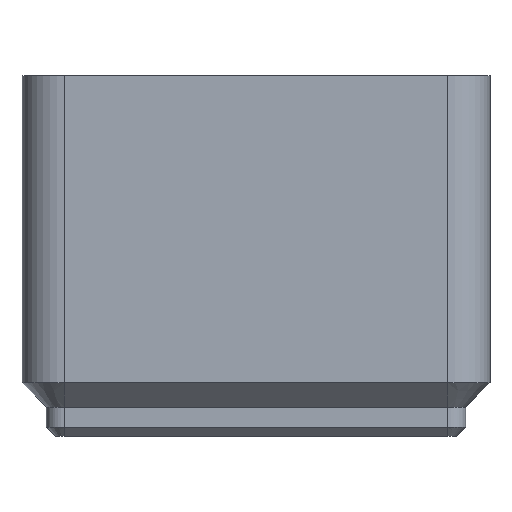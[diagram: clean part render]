
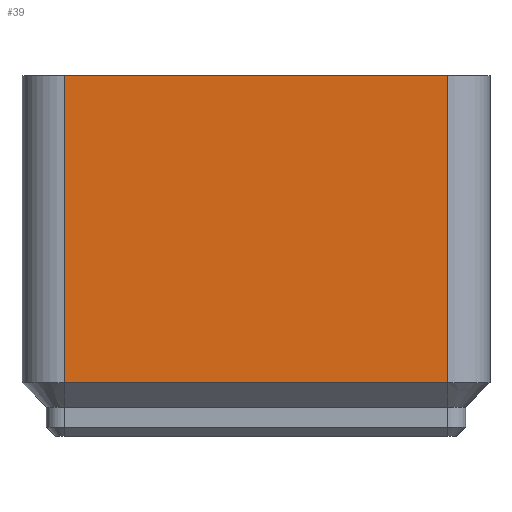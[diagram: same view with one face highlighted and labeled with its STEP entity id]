
A CAD part, left-side view. The second image highlights one B-rep face of the part: STEP entity #39.
In plain terms, the highlighted planar face has unit normal (-1, 0, 0).
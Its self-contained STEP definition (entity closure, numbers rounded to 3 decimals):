
#39 = ADVANCED_FACE('',(#40),#54,.T.);
#40 = FACE_BOUND('',#41,.T.);
#41 = EDGE_LOOP('',(#42,#77,#105,#133));
#42 = ORIENTED_EDGE('',*,*,#43,.F.);
#43 = EDGE_CURVE('',#44,#46,#48,.T.);
#44 = VERTEX_POINT('',#45);
#45 = CARTESIAN_POINT('',(-20.75,-17.,4.75));
#46 = VERTEX_POINT('',#47);
#47 = CARTESIAN_POINT('',(-20.75,17.,4.75));
#48 = SURFACE_CURVE('',#49,(#53,#65),.PCURVE_S1.);
#49 = LINE('',#50,#51);
#50 = CARTESIAN_POINT('',(-20.75,0.,4.75));
#51 = VECTOR('',#52,1.);
#52 = DIRECTION('',(0.,1.,0.));
#53 = PCURVE('',#54,#59);
#54 = PLANE('',#55);
#55 = AXIS2_PLACEMENT_3D('',#56,#57,#58);
#56 = CARTESIAN_POINT('',(-20.75,-17.,4.75));
#57 = DIRECTION('',(-1.,0.,0.));
#58 = DIRECTION('',(0.,1.,0.));
#59 = DEFINITIONAL_REPRESENTATION('',(#60),#64);
#60 = LINE('',#61,#62);
#61 = CARTESIAN_POINT('',(17.,0.));
#62 = VECTOR('',#63,1.);
#63 = DIRECTION('',(1.,0.));
#64 = ( GEOMETRIC_REPRESENTATION_CONTEXT(2) 
PARAMETRIC_REPRESENTATION_CONTEXT() REPRESENTATION_CONTEXT('2D SPACE',''
  ) );
#65 = PCURVE('',#66,#71);
#66 = PLANE('',#67);
#67 = AXIS2_PLACEMENT_3D('',#68,#69,#70);
#68 = CARTESIAN_POINT('',(-20.75,0.,4.75));
#69 = DIRECTION('',(-0.707,0.,-0.707));
#70 = DIRECTION('',(0.,-1.,-0.));
#71 = DEFINITIONAL_REPRESENTATION('',(#72),#76);
#72 = LINE('',#73,#74);
#73 = CARTESIAN_POINT('',(0.,0.));
#74 = VECTOR('',#75,1.);
#75 = DIRECTION('',(-1.,0.));
#76 = ( GEOMETRIC_REPRESENTATION_CONTEXT(2) 
PARAMETRIC_REPRESENTATION_CONTEXT() REPRESENTATION_CONTEXT('2D SPACE',''
  ) );
#77 = ORIENTED_EDGE('',*,*,#78,.T.);
#78 = EDGE_CURVE('',#44,#79,#81,.T.);
#79 = VERTEX_POINT('',#80);
#80 = CARTESIAN_POINT('',(-20.75,-17.,32.));
#81 = SURFACE_CURVE('',#82,(#86,#93),.PCURVE_S1.);
#82 = LINE('',#83,#84);
#83 = CARTESIAN_POINT('',(-20.75,-17.,4.75));
#84 = VECTOR('',#85,1.);
#85 = DIRECTION('',(0.,0.,1.));
#86 = PCURVE('',#54,#87);
#87 = DEFINITIONAL_REPRESENTATION('',(#88),#92);
#88 = LINE('',#89,#90);
#89 = CARTESIAN_POINT('',(0.,0.));
#90 = VECTOR('',#91,1.);
#91 = DIRECTION('',(0.,-1.));
#92 = ( GEOMETRIC_REPRESENTATION_CONTEXT(2) 
PARAMETRIC_REPRESENTATION_CONTEXT() REPRESENTATION_CONTEXT('2D SPACE',''
  ) );
#93 = PCURVE('',#94,#99);
#94 = CYLINDRICAL_SURFACE('',#95,3.75);
#95 = AXIS2_PLACEMENT_3D('',#96,#97,#98);
#96 = CARTESIAN_POINT('',(-17.,-17.,4.75));
#97 = DIRECTION('',(0.,0.,-1.));
#98 = DIRECTION('',(-1.,0.,0.));
#99 = DEFINITIONAL_REPRESENTATION('',(#100),#104);
#100 = LINE('',#101,#102);
#101 = CARTESIAN_POINT('',(6.283,0.));
#102 = VECTOR('',#103,1.);
#103 = DIRECTION('',(0.,-1.));
#104 = ( GEOMETRIC_REPRESENTATION_CONTEXT(2) 
PARAMETRIC_REPRESENTATION_CONTEXT() REPRESENTATION_CONTEXT('2D SPACE',''
  ) );
#105 = ORIENTED_EDGE('',*,*,#106,.T.);
#106 = EDGE_CURVE('',#79,#107,#109,.T.);
#107 = VERTEX_POINT('',#108);
#108 = CARTESIAN_POINT('',(-20.75,17.,32.));
#109 = SURFACE_CURVE('',#110,(#114,#121),.PCURVE_S1.);
#110 = LINE('',#111,#112);
#111 = CARTESIAN_POINT('',(-20.75,0.,32.));
#112 = VECTOR('',#113,1.);
#113 = DIRECTION('',(0.,1.,0.));
#114 = PCURVE('',#54,#115);
#115 = DEFINITIONAL_REPRESENTATION('',(#116),#120);
#116 = LINE('',#117,#118);
#117 = CARTESIAN_POINT('',(17.,-27.25));
#118 = VECTOR('',#119,1.);
#119 = DIRECTION('',(1.,0.));
#120 = ( GEOMETRIC_REPRESENTATION_CONTEXT(2) 
PARAMETRIC_REPRESENTATION_CONTEXT() REPRESENTATION_CONTEXT('2D SPACE',''
  ) );
#121 = PCURVE('',#122,#127);
#122 = PLANE('',#123);
#123 = AXIS2_PLACEMENT_3D('',#124,#125,#126);
#124 = CARTESIAN_POINT('',(0.,0.,32.));
#125 = DIRECTION('',(0.,0.,1.));
#126 = DIRECTION('',(1.,0.,-0.));
#127 = DEFINITIONAL_REPRESENTATION('',(#128),#132);
#128 = LINE('',#129,#130);
#129 = CARTESIAN_POINT('',(-20.75,0.));
#130 = VECTOR('',#131,1.);
#131 = DIRECTION('',(0.,1.));
#132 = ( GEOMETRIC_REPRESENTATION_CONTEXT(2) 
PARAMETRIC_REPRESENTATION_CONTEXT() REPRESENTATION_CONTEXT('2D SPACE',''
  ) );
#133 = ORIENTED_EDGE('',*,*,#134,.T.);
#134 = EDGE_CURVE('',#107,#46,#135,.T.);
#135 = SURFACE_CURVE('',#136,(#140,#147),.PCURVE_S1.);
#136 = LINE('',#137,#138);
#137 = CARTESIAN_POINT('',(-20.75,17.,32.));
#138 = VECTOR('',#139,1.);
#139 = DIRECTION('',(0.,0.,-1.));
#140 = PCURVE('',#54,#141);
#141 = DEFINITIONAL_REPRESENTATION('',(#142),#146);
#142 = LINE('',#143,#144);
#143 = CARTESIAN_POINT('',(34.,-27.25));
#144 = VECTOR('',#145,1.);
#145 = DIRECTION('',(0.,1.));
#146 = ( GEOMETRIC_REPRESENTATION_CONTEXT(2) 
PARAMETRIC_REPRESENTATION_CONTEXT() REPRESENTATION_CONTEXT('2D SPACE',''
  ) );
#147 = PCURVE('',#148,#153);
#148 = CYLINDRICAL_SURFACE('',#149,3.75);
#149 = AXIS2_PLACEMENT_3D('',#150,#151,#152);
#150 = CARTESIAN_POINT('',(-17.,17.,4.75));
#151 = DIRECTION('',(0.,0.,-1.));
#152 = DIRECTION('',(-1.,0.,0.));
#153 = DEFINITIONAL_REPRESENTATION('',(#154),#158);
#154 = LINE('',#155,#156);
#155 = CARTESIAN_POINT('',(0.,-27.25));
#156 = VECTOR('',#157,1.);
#157 = DIRECTION('',(-0.,1.));
#158 = ( GEOMETRIC_REPRESENTATION_CONTEXT(2) 
PARAMETRIC_REPRESENTATION_CONTEXT() REPRESENTATION_CONTEXT('2D SPACE',''
  ) );
